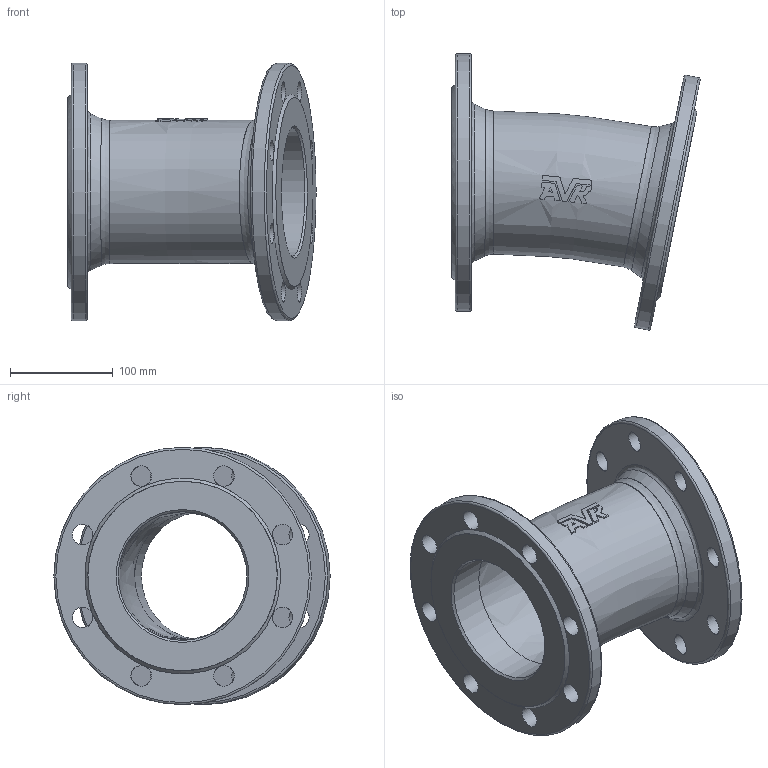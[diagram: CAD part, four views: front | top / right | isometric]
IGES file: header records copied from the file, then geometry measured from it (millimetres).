
Start section: SolidWorks IGES file using analytic representation for surfaces
Global section: file name: \\avksan2\techshare\PBM outline export from Enovia\O_712_0110_DN125_REV02.igs; native system: SolidWorks 2022; preprocessor: SolidWorks 2022; author: pbm; date: 240815.093555; units: millimetre
Bounding box: 240.96 x 268.32 x 250 mm (x, y, z)
Surface area: 332429.4 mm2 (no closed solid volume)
Topology: 0 solids, 0 shells, 120 faces, 1245 edges, 1193 vertices
Faces by surface type: revolution 77, bspline 43
